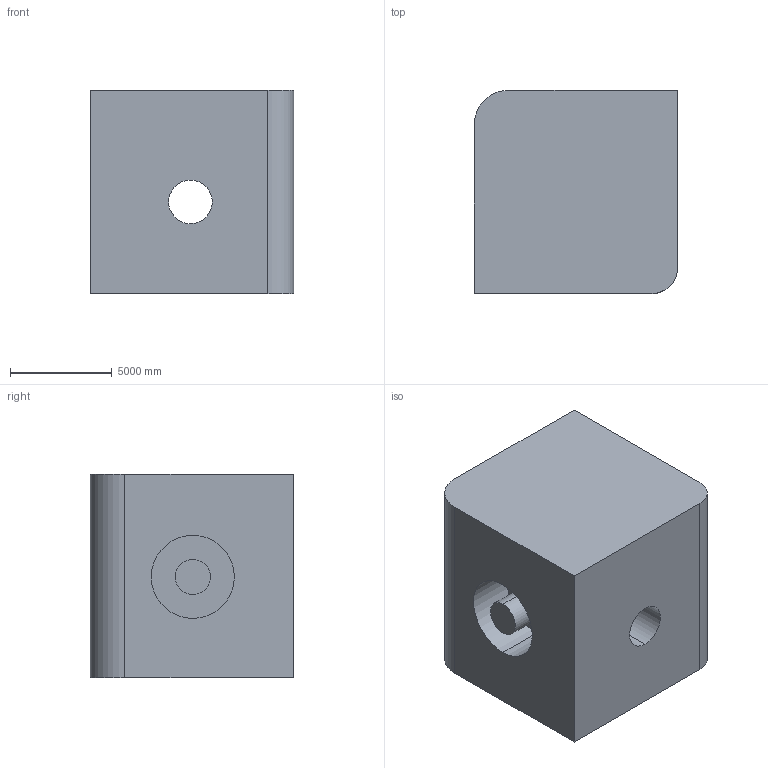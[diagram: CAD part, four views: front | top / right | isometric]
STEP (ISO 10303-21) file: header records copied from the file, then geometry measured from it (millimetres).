
FILE_DESCRIPTION (( 'STEP AP203' ), '1' );
FILE_NAME ('397.STEP', '2022-07-29T11:07:17', ( 'user' ), ( '' ), 'SwSTEP 2.0', 'SolidWorks 2021', '' );
FILE_SCHEMA (( 'CONFIG_CONTROL_DESIGN' ));
Length unit declared in the file: centimetre
Products named in the file (1): 397
Bounding box: 10000 x 10000 x 10000 mm (x, y, z)
Volume: 929095635081.5 mm3; surface area: 688288104.9 mm2
Topology: 1 solids, 1 shells, 16 faces, 36 edges, 24 vertices
Faces by surface type: cylinder 8, plane 8
Entity records: 537 total; most frequent: DIRECTION 86, CARTESIAN_POINT 77, ORIENTED_EDGE 72, EDGE_CURVE 36, AXIS2_PLACEMENT_3D 33, VERTEX_POINT 24, EDGE_LOOP 20, VECTOR 20
